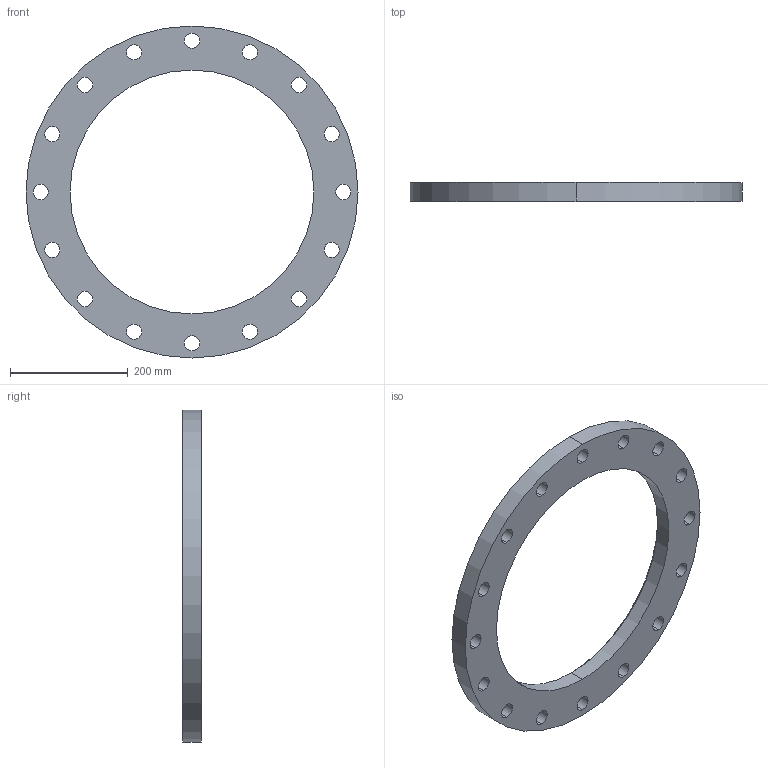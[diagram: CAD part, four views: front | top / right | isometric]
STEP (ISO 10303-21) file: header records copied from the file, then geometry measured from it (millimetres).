
FILE_DESCRIPTION (( 'STEP AP203' ), '1' );
FILE_NAME ('3D_R189_PN10_DN400_17669420.STEP', '2024-08-12T10:58:07', ( '' ), ( '' ), 'SwSTEP 2.0', 'SolidWorks 2024', '' );
FILE_SCHEMA (( 'CONFIG_CONTROL_DESIGN' ));
Length unit declared in the file: millimetre
Products named in the file (1): 3D_R189_PN10_DN400_17669420
Bounding box: 565 x 32 x 565 mm (x, y, z)
Volume: 3406249.3 mm3; surface area: 350472.5 mm2
Topology: 1 solids, 1 shells, 40 faces, 112 edges, 74 vertices
Faces by surface type: cylinder 36, cone 2, plane 2
Entity records: 1479 total; most frequent: DIRECTION 268, CARTESIAN_POINT 227, ORIENTED_EDGE 224, AXIS2_PLACEMENT_3D 115, EDGE_CURVE 112, EDGE_LOOP 74, CIRCLE 74, VERTEX_POINT 74
